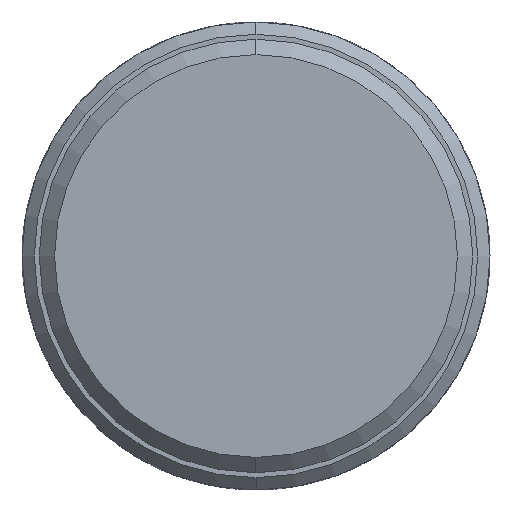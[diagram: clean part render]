
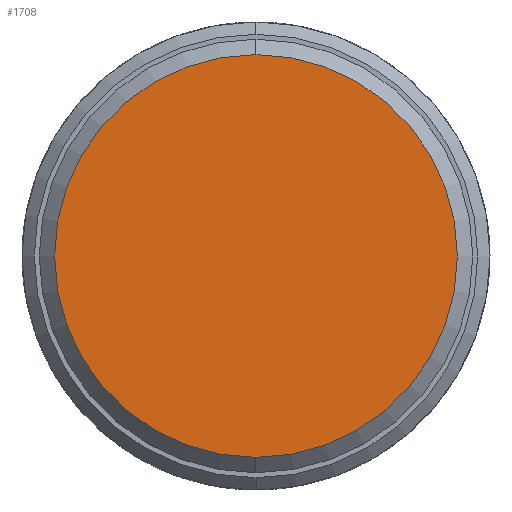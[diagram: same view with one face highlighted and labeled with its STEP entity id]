
A CAD part, left-side view. The second image highlights one B-rep face of the part: STEP entity #1708.
In plain terms, the highlighted planar face has unit normal (-1, 0, 0).
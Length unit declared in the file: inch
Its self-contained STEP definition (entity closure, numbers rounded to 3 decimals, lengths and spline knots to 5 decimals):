
#123 = AXIS2_PLACEMENT_3D ( 'NONE', #2120, #2103, #2183 ) ;
#339 = EDGE_CURVE ( 'NONE', #2960, #2929, #2732, .T. ) ;
#543 = EDGE_CURVE ( 'NONE', #2929, #2960, #3324, .T. ) ;
#552 = AXIS2_PLACEMENT_3D ( 'NONE', #1237, #1115, #1149 ) ;
#582 = AXIS2_PLACEMENT_3D ( 'NONE', #2444, #2431, #2430 ) ;
#1115 = DIRECTION ( 'NONE',  ( 1., 0., 0. ) ) ;
#1149 = DIRECTION ( 'NONE',  ( 0., 0., -1. ) ) ;
#1237 = CARTESIAN_POINT ( 'NONE',  ( -5.66964, -1.13427, 0. ) ) ;
#1490 = CARTESIAN_POINT ( 'NONE',  ( -5.66964, -1.13427, 0.8175 ) ) ;
#1501 = CARTESIAN_POINT ( 'NONE',  ( -5.66964, -1.13427, -0.8175 ) ) ;
#1708 = ADVANCED_FACE ( 'NONE', ( #2294 ), #2190, .T. ) ;
#1813 = ORIENTED_EDGE ( 'NONE', *, *, #543, .F. ) ;
#1879 = EDGE_LOOP ( 'NONE', ( #1915, #1813 ) ) ;
#1915 = ORIENTED_EDGE ( 'NONE', *, *, #339, .F. ) ;
#2103 = DIRECTION ( 'NONE',  ( -1., 0., 0. ) ) ;
#2120 = CARTESIAN_POINT ( 'NONE',  ( -5.66964, -1.78797, -0.20134 ) ) ;
#2183 = DIRECTION ( 'NONE',  ( 0., 0., 1. ) ) ;
#2190 = PLANE ( 'NONE',  #123 ) ;
#2294 = FACE_OUTER_BOUND ( 'NONE', #1879, .T. ) ;
#2430 = DIRECTION ( 'NONE',  ( 0., 0., -1. ) ) ;
#2431 = DIRECTION ( 'NONE',  ( 1., 0., 0. ) ) ;
#2444 = CARTESIAN_POINT ( 'NONE',  ( -5.66964, -1.13427, 0. ) ) ;
#2732 = CIRCLE ( 'NONE', #552, 0.8175 ) ;
#2929 = VERTEX_POINT ( 'NONE', #1490 ) ;
#2960 = VERTEX_POINT ( 'NONE', #1501 ) ;
#3324 = CIRCLE ( 'NONE', #582, 0.8175 ) ;
